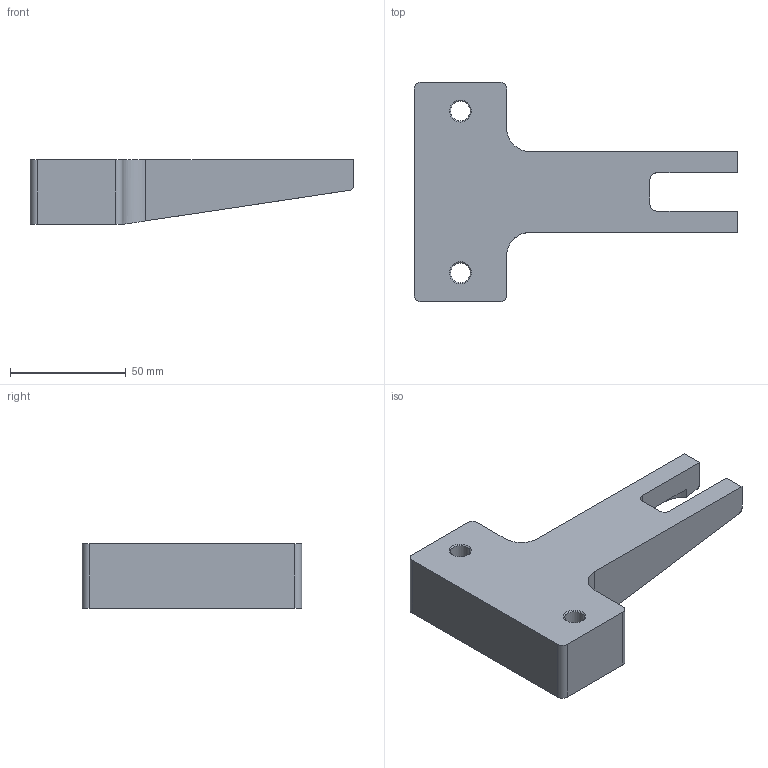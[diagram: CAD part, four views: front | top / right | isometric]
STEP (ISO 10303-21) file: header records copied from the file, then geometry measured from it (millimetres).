
FILE_DESCRIPTION(/* description */ (''),/* implementation_level */ '2;1');
FILE_NAME(/* name */ 'TRAYLOADER.31.v3.stp',/* time_stamp */ '2025-05-13T11:06:13+02:00',/* author */ (''),/* organization */ (''),/* preprocessor_version */ 'ST-DEVELOPER v19.4',/* originating_system */ 'SIEMENS PLM Software NX2306.5001',/* authorisation */ '');
FILE_SCHEMA (('AP203_CONFIGURATION_CONTROLLED_3D_DESIGN_OF_MECHANICAL_PARTS_AND_ASSEMBLIES_MIM_LF { 1 0 10303 403 2 1 2}'));
Length unit declared in the file: millimetre
Products named in the file (1): TRAYLOADER.31.v3_objects
Bounding box: 140 x 95 x 28 mm (x, y, z)
Volume: 162553.7 mm3; surface area: 27155 mm2
Topology: 1 solids, 1 shells, 37 faces, 95 edges, 62 vertices
Faces by surface type: plane 19, cylinder 16, cone 2
Full cylindrical faces by diameter (mm): 8.5 x2, 14 x2
Entity records: 1195 total; most frequent: DIRECTION 199, CARTESIAN_POINT 189, ORIENTED_EDGE 178, EDGE_CURVE 89, AXIS2_PLACEMENT_3D 72, VERTEX_POINT 62, LINE 55, VECTOR 55
